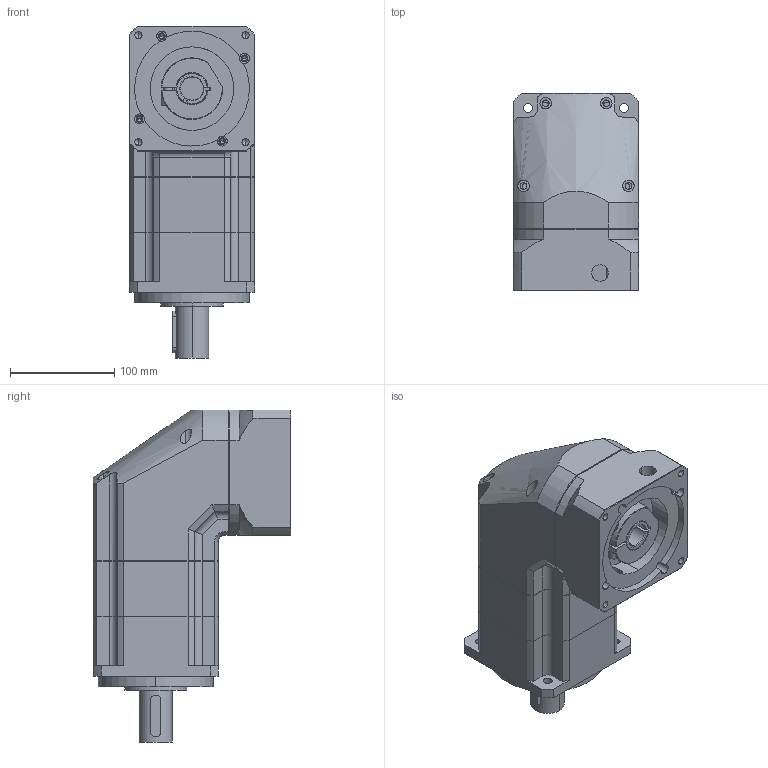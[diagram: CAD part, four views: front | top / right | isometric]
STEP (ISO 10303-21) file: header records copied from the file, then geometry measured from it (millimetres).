
FILE_DESCRIPTION (( 'STEP AP203' ), '1' );
FILE_NAME ('PDR120-L2.STEP', '2019-03-26T06:58:48', ( '微软用户' ), ( '微软中国' ), 'SwSTEP 2.0', 'SolidWorks 2014', '' );
FILE_SCHEMA (( 'CONFIG_CONTROL_DESIGN' ));
Length unit declared in the file: millimetre
Products named in the file (10): PD120   坶踡遠_22; PD120  俴陎蛌殤; PDR120-LJ01; GB／T70．1-2000   内六角圆柱头螺钉M8×20; 邧埴瑩   10x8x40; PDR120-HCZ; PD120   一级本体齿圈; PD120   二级齿圈; PDR120-XT01; PDR120-L2
Assembly tree (9 placements, depth 2):
  PDR120-L2
    PDR120-XT01
    PDR120-LJ01
    PDR120-HCZ
    PD120   坶踡遠_22
    GB／T70．1-2000   内六角圆柱头螺钉M8×20
    PD120   一级本体齿圈
    PD120   二级齿圈
    PD120  俴陎蛌殤
    邧埴瑩   10x8x40
Bounding box: 120 x 189.5 x 318 mm (x, y, z)
Volume: 3730042 mm3; surface area: 318722.6 mm2
Topology: 9 solids, 9 shells, 444 faces, 1129 edges, 711 vertices
Faces by surface type: cylinder 206, plane 154, cone 73, torus 6, sphere 4, bspline 1
Entity records: 15420 total; most frequent: CARTESIAN_POINT 3432, DIRECTION 2386, ORIENTED_EDGE 2222, EDGE_CURVE 1111, AXIS2_PLACEMENT_3D 935, VERTEX_POINT 711, EDGE_LOOP 528, VECTOR 516
